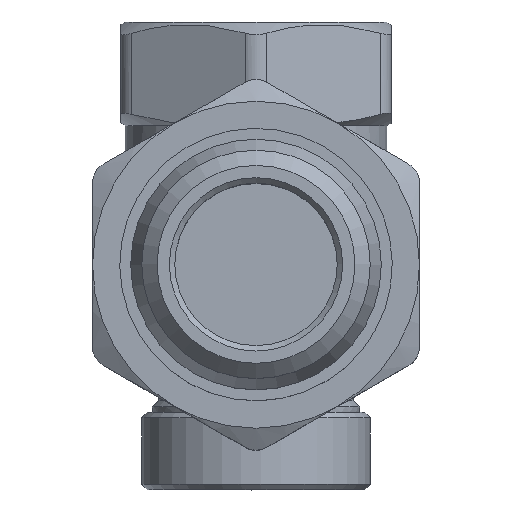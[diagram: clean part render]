
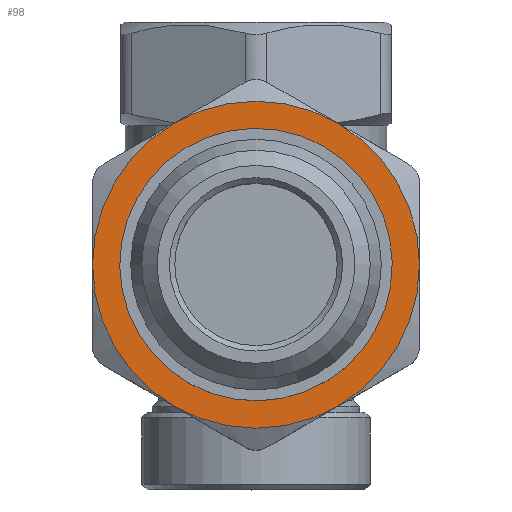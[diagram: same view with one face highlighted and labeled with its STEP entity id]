
A CAD part, top view. The second image highlights one B-rep face of the part: STEP entity #98.
In plain terms, the highlighted planar face has unit normal (0, 0, 1).
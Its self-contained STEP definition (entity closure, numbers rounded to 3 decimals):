
#98=ADVANCED_FACE('',(#523,#525),#527,.T.);
#523=FACE_BOUND('',#524,.T.);
#524=EDGE_LOOP('',(#950,#951,#952,#953,#954,#955));
#525=FACE_BOUND('',#526,.T.);
#526=EDGE_LOOP('',(#956));
#527=PLANE('',#528);
#528=AXIS2_PLACEMENT_3D('',#529,#530,#531);
#529=CARTESIAN_POINT('',(0.,0.,29.643));
#530=DIRECTION('',(0.,0.,1.));
#531=DIRECTION('',(1.,0.,0.));
#950=ORIENTED_EDGE('',*,*,#1169,.T.);
#951=ORIENTED_EDGE('',*,*,#1168,.T.);
#952=ORIENTED_EDGE('',*,*,#1173,.T.);
#953=ORIENTED_EDGE('',*,*,#1172,.T.);
#954=ORIENTED_EDGE('',*,*,#1171,.T.);
#955=ORIENTED_EDGE('',*,*,#1170,.T.);
#956=ORIENTED_EDGE('',*,*,#1176,.T.);
#1168=EDGE_CURVE('',#1373,#1413,#1420,.F.);
#1169=EDGE_CURVE('',#1381,#1373,#1421,.F.);
#1170=EDGE_CURVE('',#1389,#1381,#1422,.F.);
#1171=EDGE_CURVE('',#1397,#1389,#1423,.F.);
#1172=EDGE_CURVE('',#1405,#1397,#1424,.F.);
#1173=EDGE_CURVE('',#1413,#1405,#1425,.F.);
#1176=EDGE_CURVE('',#1430,#1430,#1431,.T.);
#1373=VERTEX_POINT('',#3335);
#1381=VERTEX_POINT('',#3438);
#1389=VERTEX_POINT('',#3543);
#1397=VERTEX_POINT('',#3629);
#1405=VERTEX_POINT('',#3745);
#1413=VERTEX_POINT('',#3850);
#1420=CIRCLE('',#3920,15.);
#1421=CIRCLE('',#3924,15.);
#1422=CIRCLE('',#3928,15.);
#1423=CIRCLE('',#3932,15.);
#1424=CIRCLE('',#3936,15.);
#1425=CIRCLE('',#3940,15.);
#1430=VERTEX_POINT('',#3954);
#1431=CIRCLE('',#3955,10.95);
#3335=CARTESIAN_POINT('',(15.,0.,29.643));
#3438=CARTESIAN_POINT('',(7.5,-12.99,29.643));
#3543=CARTESIAN_POINT('',(-7.5,-12.99,29.643));
#3629=CARTESIAN_POINT('',(-15.,0.,29.643));
#3745=CARTESIAN_POINT('',(-7.5,12.99,29.643));
#3850=CARTESIAN_POINT('',(7.5,12.99,29.643));
#3920=AXIS2_PLACEMENT_3D('',#3921,#3922,#3923);
#3921=CARTESIAN_POINT('',(0.,0.,29.643));
#3922=DIRECTION('',(0.,0.,-1.));
#3923=DIRECTION('',(0.5,0.866,0.));
#3924=AXIS2_PLACEMENT_3D('',#3925,#3926,#3927);
#3925=CARTESIAN_POINT('',(0.,0.,29.643));
#3926=DIRECTION('',(0.,0.,-1.));
#3927=DIRECTION('',(1.,0.,0.));
#3928=AXIS2_PLACEMENT_3D('',#3929,#3930,#3931);
#3929=CARTESIAN_POINT('',(0.,0.,29.643));
#3930=DIRECTION('',(0.,0.,-1.));
#3931=DIRECTION('',(0.5,-0.866,0.));
#3932=AXIS2_PLACEMENT_3D('',#3933,#3934,#3935);
#3933=CARTESIAN_POINT('',(0.,0.,29.643));
#3934=DIRECTION('',(0.,0.,-1.));
#3935=DIRECTION('',(-0.5,-0.866,0.));
#3936=AXIS2_PLACEMENT_3D('',#3937,#3938,#3939);
#3937=CARTESIAN_POINT('',(0.,0.,29.643));
#3938=DIRECTION('',(0.,0.,-1.));
#3939=DIRECTION('',(-1.,0.,0.));
#3940=AXIS2_PLACEMENT_3D('',#3941,#3942,#3943);
#3941=CARTESIAN_POINT('',(0.,0.,29.643));
#3942=DIRECTION('',(0.,0.,-1.));
#3943=DIRECTION('',(-0.5,0.866,0.));
#3954=CARTESIAN_POINT('',(0.,-10.95,29.643));
#3955=AXIS2_PLACEMENT_3D('',#3956,#3957,#3958);
#3956=CARTESIAN_POINT('',(0.,0.,29.643));
#3957=DIRECTION('',(0.,0.,-1.));
#3958=DIRECTION('',(0.,-1.,0.));
